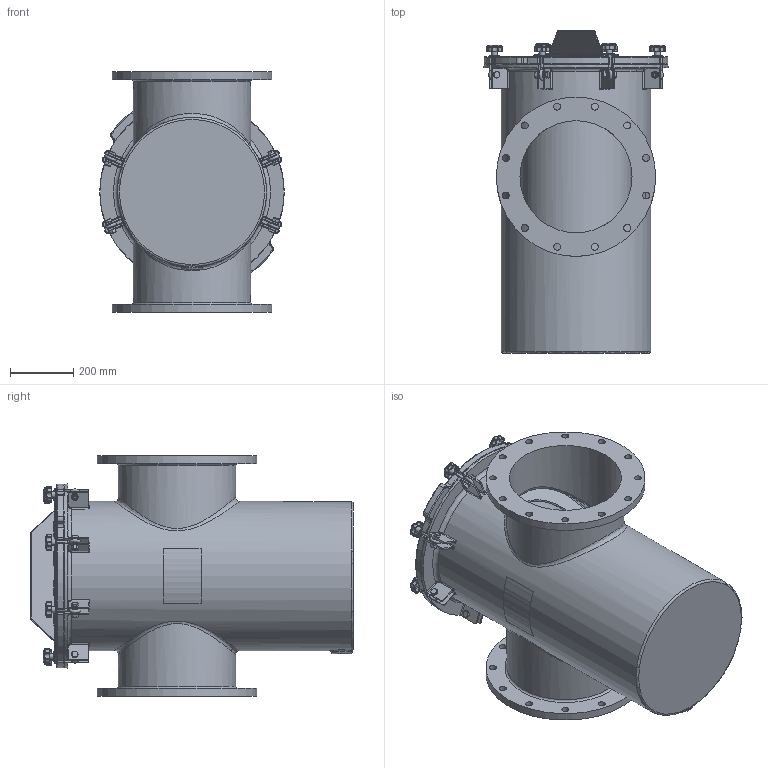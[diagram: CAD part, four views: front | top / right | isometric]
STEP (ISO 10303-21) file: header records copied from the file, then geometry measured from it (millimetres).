
FILE_DESCRIPTION(/* description */ ('STRAINER BODY'),/* implementation_level */ '2;1');
FILE_NAME(/* name */ '\\chntshnas1\IP_PUMPS\NeptuneBenson\Project Execution\WIP\Ready for delivery - Do not Disturb -Updated with metric Flange\Workspace\FG Straight Strainer\150NBFG14X14-MM.stp',/* time_stamp */ '2016-10-18T19:45:00+05:00',/* author */ ('20076253'),/* organization */ (''),/* preprocessor_version */ 'ST-DEVELOPER v16.1',/* originating_system */ 'Autodesk Inventor 2016',/* authorisation */ '');
FILE_SCHEMA (('AUTOMOTIVE_DESIGN { 1 0 10303 214 3 1 1 }'));
Length unit declared in the file: inch
Products named in the file (24): NBFGBODY14X14MM; 150NBCVR18R2; 150NBGSK18R1; Perforated Basket 18in; Bride (Ring) 18in; Baffle 18in; Handle 18in; Bottom Strainer 18in; NBBSK14T316; BRACESTRCVR18_Welds; BRACE (BASE) FOR 18 BODY; BRACE (PROJ) FOR 18 BODY; Bumper; BRACESTRCVR18; Nut- 1_2  UNC; Bolt-1_2 x 1 1_2  UNC; EyeBolt; Washer; Knob M10; Securing Assembly For FG  with Brace; Securing Assembly For FG without Brace; Label for 18.625 inch (Right); Label for 18.625 inch (Left); Guardian FG H&L Strainer (Metric)
Assembly tree (39 placements, depth 3):
  Guardian FG H&L Strainer (Metric)
    NBFGBODY14X14MM
    150NBCVR18R2
    150NBGSK18R1
    NBBSK14T316
      Perforated Basket 18in
      Bride (Ring) 18in
      Baffle 18in
      Handle 18in
      Bottom Strainer 18in
    BRACESTRCVR18
      BRACESTRCVR18_Welds
      BRACE (BASE) FOR 18 BODY
      BRACE (PROJ) FOR 18 BODY
      Bumper  x6
    Securing Assembly For FG  with Brace  x2
      Nut- 1_2  UNC
      Bolt-1_2 x 1 1_2  UNC
      EyeBolt
      Washer
      Knob M10
    Securing Assembly For FG without Brace  x6
      Nut- 1_2  UNC
      Bolt-1_2 x 1 1_2  UNC
      EyeBolt
      Washer
      Knob M10
    Label for 18.625 inch (Right)
    Label for 18.625 inch (Left)
Bounding box: 584.2 x 1022.35 x 762 mm (x, y, z)
Volume: 29259724.3 mm3; surface area: 7285226.2 mm2
Topology: 67 solids, 67 shells, 1837 faces, 4191 edges, 2478 vertices
Faces by surface type: cylinder 675, plane 511, cone 184, torus 168, sphere 158, bspline 141
Full cylindrical faces by diameter (mm): 3.175 x11, 6.35 x1, 8.382 x8, 9.525 x16, 10.592 x8, 12.7 x8, 15.875 x16, 19 x16, 19.05 x8, 22.098 x24, 22.809 x1, 31.75 x8, 352.425 x2, 355.6 x3, 358.14 x1, 371.475 x2, 457.2 x3, 463.55 x1, 473.075 x1, 505.46 x2, 520.7 x1, 527.05 x1
Entity records: 35149 total; most frequent: CARTESIAN_POINT 11602, DIRECTION 4858, ORIENTED_EDGE 4454, EDGE_CURVE 2227, AXIS2_PLACEMENT_3D 1989, VERTEX_POINT 1397, EDGE_LOOP 1210, ADVANCED_FACE 987
